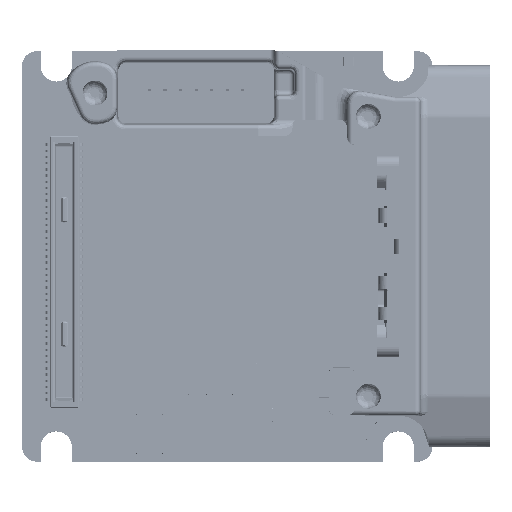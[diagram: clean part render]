
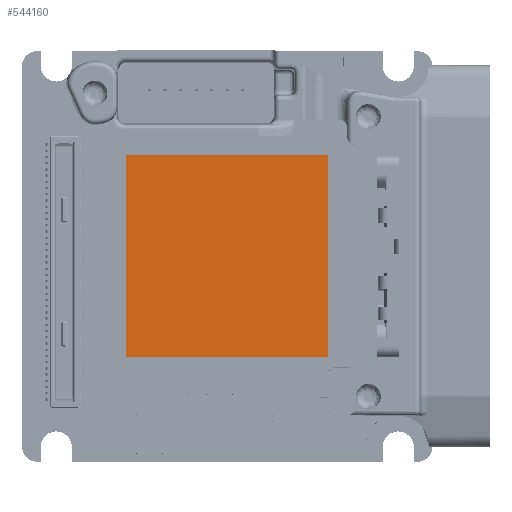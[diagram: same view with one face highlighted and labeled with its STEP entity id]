
A CAD part, top view. The second image highlights one B-rep face of the part: STEP entity #544160.
In plain terms, the highlighted planar face has unit normal (0, 0, 1).
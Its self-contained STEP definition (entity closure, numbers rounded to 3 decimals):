
#53 = DIRECTION ( 'NONE',  ( -1., 0., 0. ) ) ;
#2879 = CARTESIAN_POINT ( 'NONE',  ( -6.5, -6.5, 6.162 ) ) ;
#7565 = VECTOR ( 'NONE', #17522, 1000. ) ;
#17522 = DIRECTION ( 'NONE',  ( 1., 0., 0. ) ) ;
#22028 = CARTESIAN_POINT ( 'NONE',  ( -6.5, 6.5, 6.162 ) ) ;
#25239 = DIRECTION ( 'NONE',  ( 0., 1., 0. ) ) ;
#74266 = EDGE_CURVE ( 'NONE', #385849, #431256, #417221, .T. ) ;
#99699 = EDGE_CURVE ( 'NONE', #151701, #524039, #239799, .T. ) ;
#151701 = VERTEX_POINT ( 'NONE', #22028 ) ;
#164330 = DIRECTION ( 'NONE',  ( 0., -1., 0. ) ) ;
#167778 = EDGE_LOOP ( 'NONE', ( #312007, #302721, #345234, #375080 ) ) ;
#203203 = CARTESIAN_POINT ( 'NONE',  ( -6.5, 6.5, 6.162 ) ) ;
#239799 = LINE ( 'NONE', #203203, #7565 ) ;
#247611 = CARTESIAN_POINT ( 'NONE',  ( -6.5, -6.5, 6.162 ) ) ;
#288991 = CARTESIAN_POINT ( 'NONE',  ( 6.5, -6.5, 6.162 ) ) ;
#302721 = ORIENTED_EDGE ( 'NONE', *, *, #313308, .F. ) ;
#304506 = FACE_OUTER_BOUND ( 'NONE', #167778, .T. ) ;
#312007 = ORIENTED_EDGE ( 'NONE', *, *, #74266, .F. ) ;
#313308 = EDGE_CURVE ( 'NONE', #524039, #385849, #356066, .T. ) ;
#338178 = EDGE_CURVE ( 'NONE', #431256, #151701, #482186, .T. ) ;
#345234 = ORIENTED_EDGE ( 'NONE', *, *, #99699, .F. ) ;
#353078 = CARTESIAN_POINT ( 'NONE',  ( 6.5, 6.5, 6.162 ) ) ;
#356066 = LINE ( 'NONE', #353078, #457930 ) ;
#375080 = ORIENTED_EDGE ( 'NONE', *, *, #338178, .F. ) ;
#385849 = VERTEX_POINT ( 'NONE', #539313 ) ;
#387702 = DIRECTION ( 'NONE',  ( 1., 0., 0. ) ) ;
#401928 = DIRECTION ( 'NONE',  ( 0., 0., 1. ) ) ;
#417221 = LINE ( 'NONE', #288991, #522443 ) ;
#431256 = VERTEX_POINT ( 'NONE', #2879 ) ;
#447757 = PLANE ( 'NONE',  #451377 ) ;
#451377 = AXIS2_PLACEMENT_3D ( 'NONE', #570509, #401928, #387702 ) ;
#457930 = VECTOR ( 'NONE', #164330, 1000. ) ;
#472733 = VECTOR ( 'NONE', #25239, 1000. ) ;
#482186 = LINE ( 'NONE', #247611, #472733 ) ;
#522443 = VECTOR ( 'NONE', #53, 1000. ) ;
#524039 = VERTEX_POINT ( 'NONE', #593292 ) ;
#539313 = CARTESIAN_POINT ( 'NONE',  ( 6.5, -6.5, 6.162 ) ) ;
#544160 = ADVANCED_FACE ( 'NONE', ( #304506 ), #447757, .T. ) ;
#570509 = CARTESIAN_POINT ( 'NONE',  ( -6.5, -6.5, 6.162 ) ) ;
#593292 = CARTESIAN_POINT ( 'NONE',  ( 6.5, 6.5, 6.162 ) ) ;
